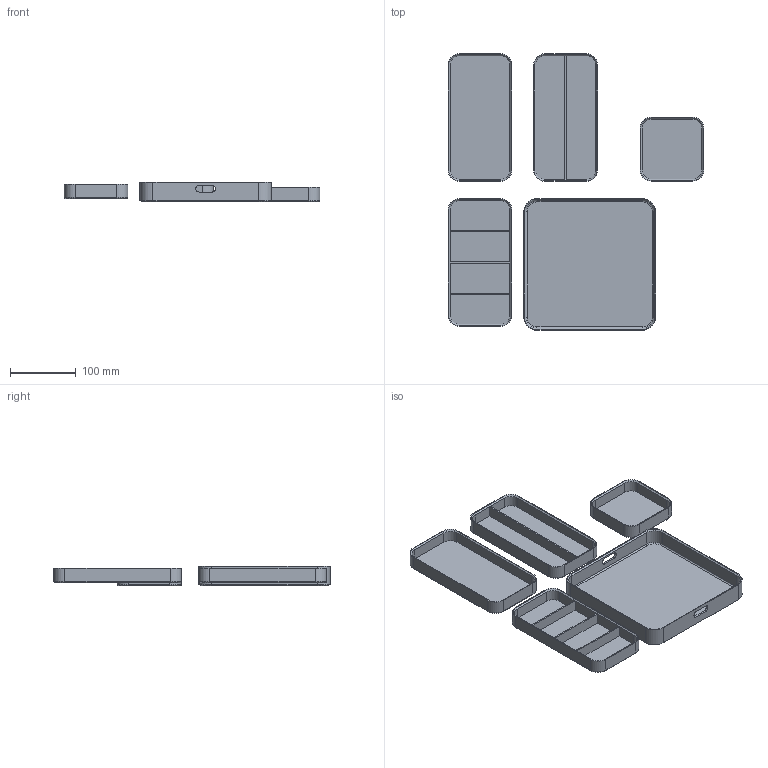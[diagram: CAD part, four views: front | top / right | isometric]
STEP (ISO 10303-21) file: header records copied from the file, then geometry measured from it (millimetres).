
FILE_DESCRIPTION(/* description */ (''),/* implementation_level */ '2;1');
FILE_NAME(/* name */ 'Build_tray_v3.step',/* time_stamp */ '2026-06-07T17:37:32-03:00',/* author */ (''),/* organization */ (''),/* preprocessor_version */ 'ST-DEVELOPER v20.1',/* originating_system */ 'Autodesk Translation Framework v15.8.0.0',/* authorisation */ '');
FILE_SCHEMA (('AUTOMOTIVE_DESIGN { 1 0 10303 214 3 1 1 }'));
Length unit declared in the file: millimetre
Products named in the file (1): Build_tray
Bounding box: 388.5 x 420 x 30 mm (x, y, z)
Volume: 566776.9 mm3; surface area: 340441.4 mm2
Topology: 5 solids, 5 shells, 351 faces, 858 edges, 540 vertices
Faces by surface type: plane 238, cylinder 64, cone 24, torus 20, bspline 5
Entity records: 10191 total; most frequent: CARTESIAN_POINT 1847, ORIENTED_EDGE 1716, DIRECTION 1706, EDGE_CURVE 858, LINE 660, VECTOR 660, VERTEX_POINT 540, AXIS2_PLACEMENT_3D 523
